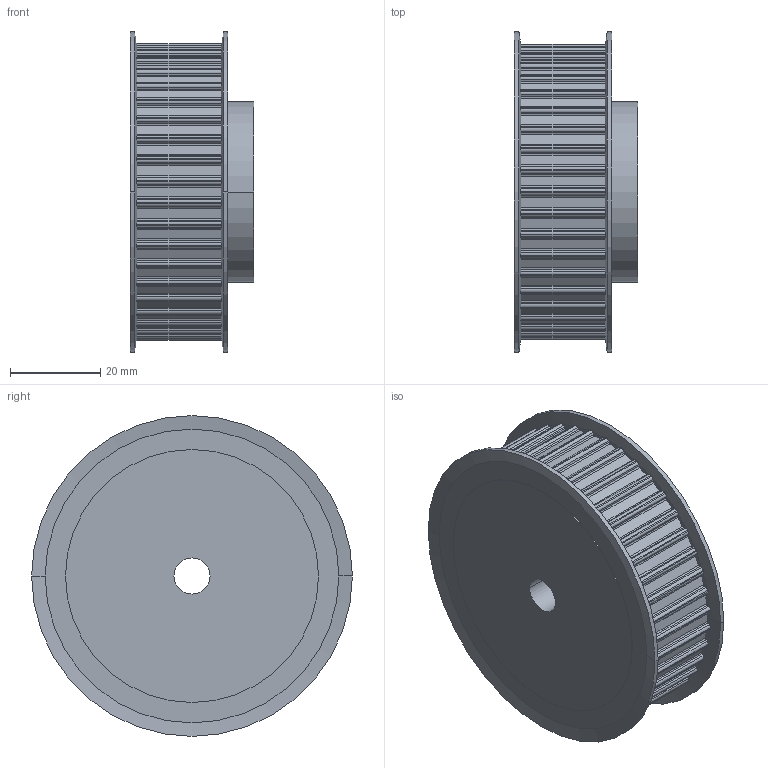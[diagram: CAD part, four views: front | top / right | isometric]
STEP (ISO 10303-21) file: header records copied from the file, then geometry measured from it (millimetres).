
FILE_DESCRIPTION( ( '' ), '1' );
FILE_NAME( 'C:/Users/Stangenbergd/Documents/CAD_Step/1/16634200.stp', '2021-10-19T09:36:52', ( '' ), ( '' ), ' ', ' ', ' ' );
FILE_SCHEMA( ( 'CONFIG_CONTROL_DESIGN' ) );
Length unit declared in the file: millimetre
Products named in the file (1): 1
Bounding box: 27.27 x 71 x 71 mm (x, y, z)
Volume: 75328.5 mm3; surface area: 15912.9 mm2
Topology: 1 solids, 1 shells, 529 faces, 1396 edges, 872 vertices
Faces by surface type: plane 299, cylinder 222, cone 8
Entity records: 16598 total; most frequent: DIRECTION 3244, CARTESIAN_POINT 2798, ORIENTED_EDGE 2792, EDGE_CURVE 1396, AXIS2_PLACEMENT_3D 1318, VERTEX_POINT 872, CIRCLE 788, LINE 608
